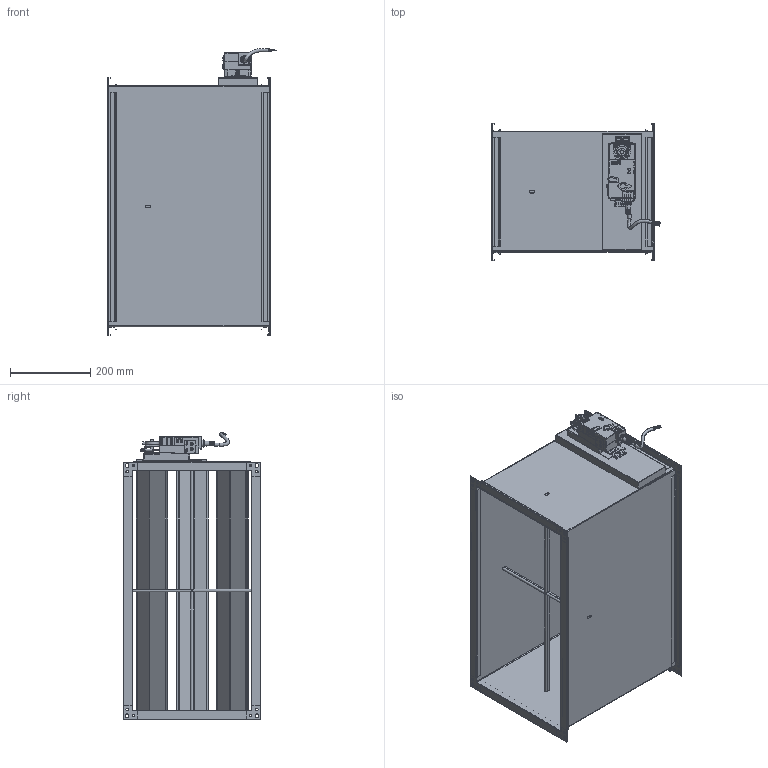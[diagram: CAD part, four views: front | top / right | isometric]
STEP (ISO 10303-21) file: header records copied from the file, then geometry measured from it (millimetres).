
FILE_DESCRIPTION (( 'STEP AP214' ), '1' );
FILE_NAME ('VAV-S600300.STEP', '2025-05-08T11:37:57', ( '' ), ( '' ), 'SwSTEP 2.0', 'SolidWorks 2025', '' );
FILE_SCHEMA (( 'AUTOMOTIVE_DESIGN' ));
Length unit declared in the file: millimetre
Products named in the file (1): VAV-S600300
Bounding box: 420.09 x 341 x 713.69 mm (x, y, z)
Surface area: 2631956 mm2 (no closed solid volume)
Topology: 0 solids, 48 shells, 2054 faces, 5352 edges, 3403 vertices
Faces by surface type: plane 1523, cylinder 478, bspline 24, sphere 18, cone 10, torus 1
Full cylindrical faces by diameter (mm): 1 x4, 6 x17, 8 x1, 9 x8, 11 x1, 20 x1, 21 x2
Entity records: 90600 total; most frequent: CARTESIAN_POINT 41390, ORIENTED_EDGE 10489, DIRECTION 6660, EDGE_CURVE 5268, VERTEX_POINT 3377, B_SPLINE_CURVE_WITH_KNOTS 3170, AXIS2_PLACEMENT_3D 2543, EDGE_LOOP 2256
